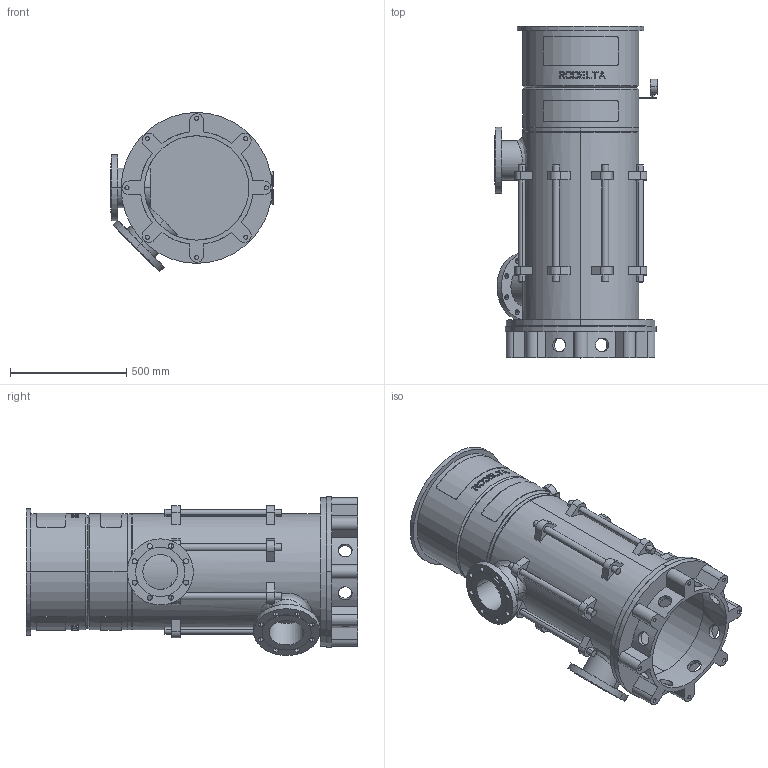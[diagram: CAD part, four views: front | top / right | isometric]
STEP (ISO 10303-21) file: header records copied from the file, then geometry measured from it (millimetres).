
FILE_DESCRIPTION((''),'2;1');
FILE_NAME('LS6_3TR_0GR_PN16_ABOVE_30KW','2025-10-23T11:59:10',('Lyritlocal'),(''),'CREO PARAMETRIC BY PTC INC, 2022014','CREO PARAMETRIC BY PTC INC, 2022014','');
FILE_SCHEMA(('CONFIG_CONTROL_DESIGN'));
Length unit declared in the file: millimetre
Products named in the file (1): LS6_3TR_0GR_PN16_ABOVE_30KW
Bounding box: 700 x 1429 x 685.27 mm (x, y, z)
Volume: 49702988.5 mm3; surface area: 6671413.5 mm2
Topology: 3 solids, 11 shells, 732 faces, 1889 edges, 1258 vertices
Faces by surface type: plane 438, cylinder 274, cone 12, bspline 8
Entity records: 24353 total; most frequent: CARTESIAN_POINT 6533, ORIENTED_EDGE 3746, DIRECTION 3535, EDGE_CURVE 1889, AXIS2_PLACEMENT_3D 1341, VERTEX_POINT 1258, EDGE_LOOP 895, VECTOR 853
